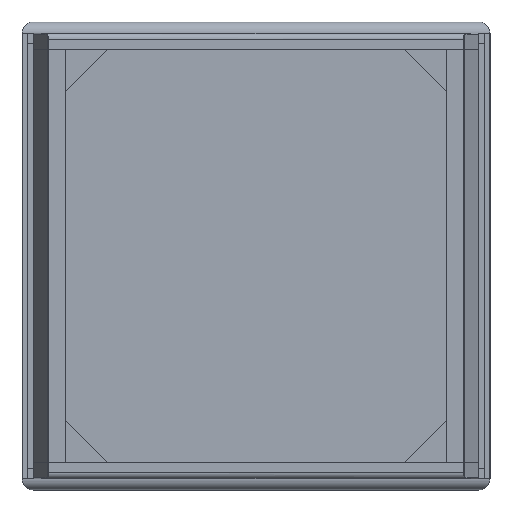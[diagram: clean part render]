
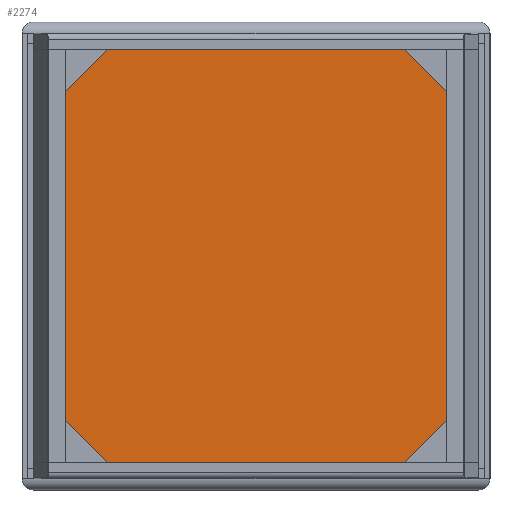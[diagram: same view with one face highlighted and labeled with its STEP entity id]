
A CAD part, front view. The second image highlights one B-rep face of the part: STEP entity #2274.
In plain terms, the highlighted planar face has unit normal (0, -1, 0).
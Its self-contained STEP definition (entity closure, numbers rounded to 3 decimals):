
#304=FACE_OUTER_BOUND('',#454,.T.);
#454=EDGE_LOOP('',(#2009,#2010,#2011,#2012));
#689=LINE('',#5053,#927);
#690=LINE('',#5055,#928);
#691=LINE('',#5057,#929);
#692=LINE('',#5058,#930);
#927=VECTOR('',#3106,1000.);
#928=VECTOR('',#3107,1000.);
#929=VECTOR('',#3108,1000.);
#930=VECTOR('',#3109,1000.);
#1119=VERTEX_POINT('',#5051);
#1120=VERTEX_POINT('',#5052);
#1121=VERTEX_POINT('',#5054);
#1122=VERTEX_POINT('',#5056);
#1417=EDGE_CURVE('',#1119,#1120,#689,.T.);
#1418=EDGE_CURVE('',#1121,#1119,#690,.T.);
#1419=EDGE_CURVE('',#1122,#1121,#691,.T.);
#1420=EDGE_CURVE('',#1120,#1122,#692,.T.);
#2009=ORIENTED_EDGE('',*,*,#1417,.F.);
#2010=ORIENTED_EDGE('',*,*,#1418,.F.);
#2011=ORIENTED_EDGE('',*,*,#1419,.F.);
#2012=ORIENTED_EDGE('',*,*,#1420,.F.);
#2126=PLANE('',#2501);
#2274=ADVANCED_FACE('',(#304),#2126,.F.);
#2501=AXIS2_PLACEMENT_3D('',#5050,#3104,#3105);
#3104=DIRECTION('center_axis',(0.,1.,0.));
#3105=DIRECTION('ref_axis',(0.,0.,1.));
#3106=DIRECTION('',(-1.,0.,0.));
#3107=DIRECTION('',(0.,0.,-1.));
#3108=DIRECTION('',(1.,0.,0.));
#3109=DIRECTION('',(0.,0.,1.));
#5050=CARTESIAN_POINT('Origin',(0.,0.,0.));
#5051=CARTESIAN_POINT('',(379.,0.,-369.));
#5052=CARTESIAN_POINT('',(-379.,0.,-369.));
#5053=CARTESIAN_POINT('',(379.,0.,-369.));
#5054=CARTESIAN_POINT('',(379.,0.,369.));
#5055=CARTESIAN_POINT('',(379.,0.,-369.));
#5056=CARTESIAN_POINT('',(-379.,0.,369.));
#5057=CARTESIAN_POINT('',(379.,0.,369.));
#5058=CARTESIAN_POINT('',(-379.,0.,-369.));
